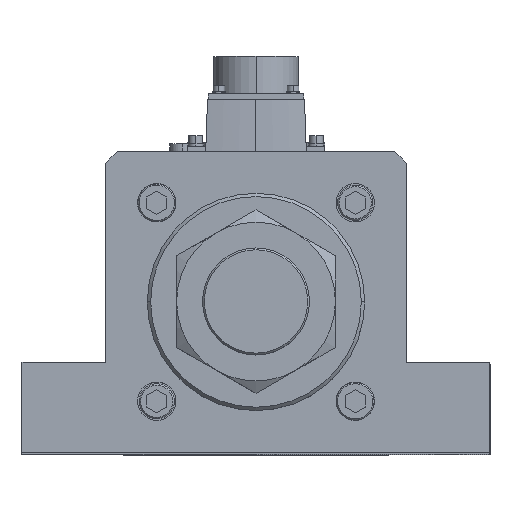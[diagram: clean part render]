
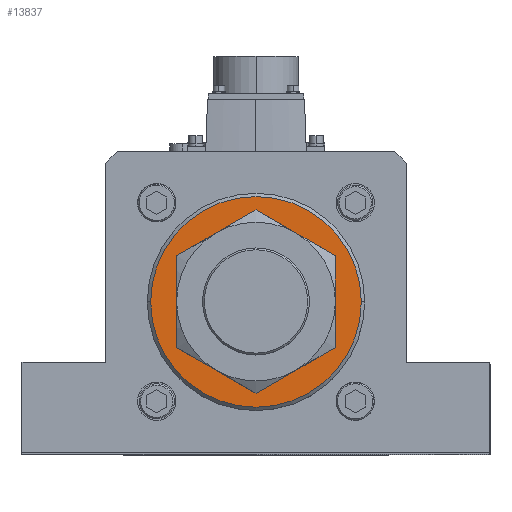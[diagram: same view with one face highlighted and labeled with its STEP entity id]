
A CAD part, top view. The second image highlights one B-rep face of the part: STEP entity #13837.
In plain terms, the highlighted planar face has unit normal (0, 0, 1).
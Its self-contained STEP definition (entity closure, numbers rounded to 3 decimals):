
#144 = EDGE_CURVE ( 'NONE', #19463, #29328, #28156, .T. ) ;
#501 = DIRECTION ( 'NONE',  ( 1., 0., 0. ) ) ;
#4989 = AXIS2_PLACEMENT_3D ( 'NONE', #31343, #18263, #501 ) ;
#5011 = VERTEX_POINT ( 'NONE', #22122 ) ;
#9893 = CIRCLE ( 'NONE', #33444, 63. ) ;
#13164 = ORIENTED_EDGE ( 'NONE', *, *, #36998, .T. ) ;
#13837 = ADVANCED_FACE ( 'NONE', ( #16123, #48775 ), #52119, .T. ) ;
#13912 = CIRCLE ( 'NONE', #4989, 40.5 ) ;
#15730 = EDGE_CURVE ( 'NONE', #29861, #5011, #32753, .T. ) ;
#16123 = FACE_BOUND ( 'NONE', #18592, .T. ) ;
#16963 = AXIS2_PLACEMENT_3D ( 'NONE', #43471, #43278, #34900 ) ;
#18263 = DIRECTION ( 'NONE',  ( 0., 0., -1. ) ) ;
#18592 = EDGE_LOOP ( 'NONE', ( #51358, #47443 ) ) ;
#19463 = VERTEX_POINT ( 'NONE', #48289 ) ;
#22122 = CARTESIAN_POINT ( 'NONE',  ( -63., 0., 662. ) ) ;
#22789 = AXIS2_PLACEMENT_3D ( 'NONE', #43366, #30250, #47587 ) ;
#23641 = CARTESIAN_POINT ( 'NONE',  ( 0., 0., 662. ) ) ;
#24903 = DIRECTION ( 'NONE',  ( 1., 0., 0. ) ) ;
#28156 = CIRCLE ( 'NONE', #16963, 40.5 ) ;
#29328 = VERTEX_POINT ( 'NONE', #54982 ) ;
#29861 = VERTEX_POINT ( 'NONE', #30278 ) ;
#30250 = DIRECTION ( 'NONE',  ( 0., 0., 1. ) ) ;
#30278 = CARTESIAN_POINT ( 'NONE',  ( 63., 0., 662. ) ) ;
#31343 = CARTESIAN_POINT ( 'NONE',  ( 0., 0., 662. ) ) ;
#32753 = CIRCLE ( 'NONE', #48364, 63. ) ;
#33444 = AXIS2_PLACEMENT_3D ( 'NONE', #51148, #33458, #24903 ) ;
#33458 = DIRECTION ( 'NONE',  ( 0., 0., 1. ) ) ;
#34900 = DIRECTION ( 'NONE',  ( 1., 0., 0. ) ) ;
#35715 = ORIENTED_EDGE ( 'NONE', *, *, #15730, .T. ) ;
#36537 = DIRECTION ( 'NONE',  ( 1., 0., 0. ) ) ;
#36998 = EDGE_CURVE ( 'NONE', #5011, #29861, #9893, .T. ) ;
#42597 = EDGE_LOOP ( 'NONE', ( #13164, #35715 ) ) ;
#43278 = DIRECTION ( 'NONE',  ( 0., 0., -1. ) ) ;
#43366 = CARTESIAN_POINT ( 'NONE',  ( 0., 0., 662. ) ) ;
#43471 = CARTESIAN_POINT ( 'NONE',  ( 0., 0., 662. ) ) ;
#47443 = ORIENTED_EDGE ( 'NONE', *, *, #144, .T. ) ;
#47587 = DIRECTION ( 'NONE',  ( 1., 0., 0. ) ) ;
#48289 = CARTESIAN_POINT ( 'NONE',  ( -40.5, 0., 662. ) ) ;
#48364 = AXIS2_PLACEMENT_3D ( 'NONE', #23641, #49686, #36537 ) ;
#48775 = FACE_OUTER_BOUND ( 'NONE', #42597, .T. ) ;
#49686 = DIRECTION ( 'NONE',  ( 0., 0., 1. ) ) ;
#51148 = CARTESIAN_POINT ( 'NONE',  ( 0., 0., 662. ) ) ;
#51358 = ORIENTED_EDGE ( 'NONE', *, *, #52662, .T. ) ;
#52119 = PLANE ( 'NONE',  #22789 ) ;
#52662 = EDGE_CURVE ( 'NONE', #29328, #19463, #13912, .T. ) ;
#54982 = CARTESIAN_POINT ( 'NONE',  ( 40.5, 0., 662. ) ) ;
